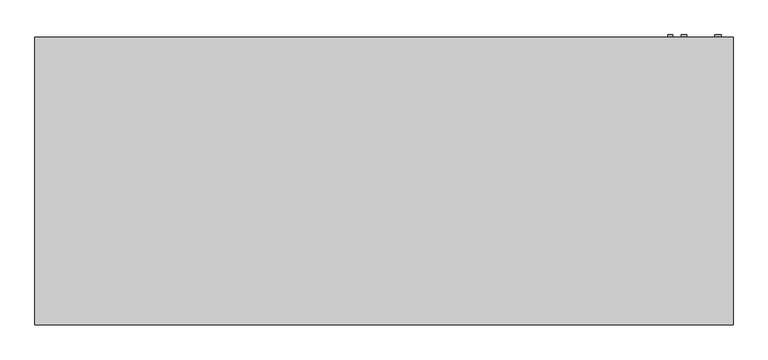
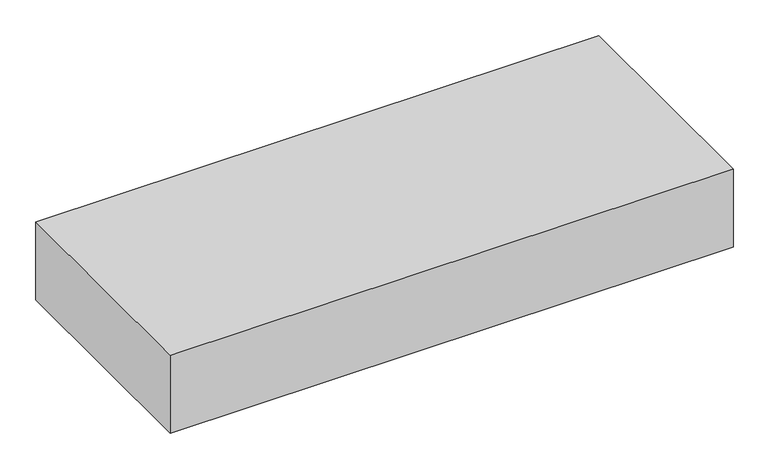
"""IFC4 building model written with IfcOpenShell, lengths in millimetres: proxy geometry, Exposed_Horizontal_Fan_Coil_Unit_-_42CGB_-_CARRIER_-_2-Pipe_Cool-EHeat_BS-BR_RH_2022 : Size 12 - 277v/60Hz/1Ph - 4 Row 10.0kW."""

import ifcopenshell
import ifcopenshell.guid

model = None  # the IFC model being written
_history = None  # IfcOwnerHistory: only IFC2X3 demands one
_inside = {}  # id of a spatial element -> (the spatial element, [elements in it])
_under = {}  # id of a project, library or spatial element -> (it, [spatial elements below it])
_declared = {}  # id of a project -> (the project, [libraries it declares])
_typed = {}  # id of a type object -> (the type object, [elements of that type])
_made_of = {}  # id of a material, layer set ... -> (it, [elements and type objects made of it])


def new_model(schema):
    """Start an empty IFC model of exactly this schema.

    Asked for "IFC4X3", IfcOpenShell would pick the latest addendum, in which some entities
    have other attributes; the version numbers below select the first issue.
    IFC2X3 requires an IfcOwnerHistory on every rooted entity: one is made here for all.
    """
    global model, _history
    if schema == "IFC4X3":
        model = ifcopenshell.file(schema_version=(4, 3, 0, 0))
    else:
        model = ifcopenshell.file(schema=schema)
    _inside.clear()
    _under.clear()
    _declared.clear()
    _typed.clear()
    _made_of.clear()
    _history = None
    if model.schema == "IFC2X3":
        org = make("IfcOrganization", Name="unknown")
        user = make(
            "IfcPersonAndOrganization",
            ThePerson=make("IfcPerson", FamilyName="unknown"),
            TheOrganization=org,
        )
        app = make(
            "IfcApplication",
            ApplicationDeveloper=org,
            Version="unknown",
            ApplicationFullName="unknown",
            ApplicationIdentifier="unknown",
        )
        _history = make(
            "IfcOwnerHistory",
            OwningUser=user,
            OwningApplication=app,
            ChangeAction="ADDED",
            CreationDate=0,
        )
    return model


def make(cls, **values):
    """One entity of the class cls with the attributes given. An attribute that is None is left unset."""
    return model.create_entity(
        cls, **{name: value for name, value in values.items() if value is not None}
    )


def rooted(cls, **values):
    """An entity with a GlobalId (a new one), such as an element, a storey or a relation."""
    return make(cls, GlobalId=ifcopenshell.guid.new(), OwnerHistory=_history, **values)


def si_unit(unit_type, name, prefix=None):
    """IfcSIUnit, for example si_unit("LENGTHUNIT", "METRE", prefix="MILLI")."""
    return make("IfcSIUnit", UnitType=unit_type, Prefix=prefix, Name=name)


def assignment(units):
    """IfcUnitAssignment: the units of a project."""
    return None if units is None else make("IfcUnitAssignment", Units=units)


def point(xyz):
    """IfcCartesianPoint."""
    return None if xyz is None else make("IfcCartesianPoint", Coordinates=xyz)


def direction(xyz):
    """IfcDirection."""
    return None if xyz is None else make("IfcDirection", DirectionRatios=xyz)


def frame(location, z_axis=None, x_axis=None):
    """IfcAxis2Placement3D, a coordinate frame: its origin and axes. An axis left out is left unset."""
    return make(
        "IfcAxis2Placement3D",
        Location=point(location),
        Axis=direction(z_axis),
        RefDirection=direction(x_axis),
    )


def frame_2d(location, x_axis=None):
    """IfcAxis2Placement2D, a coordinate frame in the plane: its origin and x axis."""
    return make(
        "IfcAxis2Placement2D", Location=point(location), RefDirection=direction(x_axis)
    )


def origin():
    """The frame at (0, 0, 0) with its axes left unset."""
    return frame((0.0, 0.0, 0.0))


def place(relative_to, where):
    """IfcLocalPlacement: puts the frame where relative to a parent placement (None: the world)."""
    return make(
        "IfcLocalPlacement", PlacementRelTo=relative_to, RelativePlacement=where
    )


def context(
    kind, dimensions, precision=None, world=None, true_north=None, identifier=None
):
    """IfcGeometricRepresentationContext, for example the 3D "Model" context."""
    return make(
        "IfcGeometricRepresentationContext",
        ContextIdentifier=identifier,
        ContextType=kind,
        CoordinateSpaceDimension=dimensions,
        Precision=precision,
        WorldCoordinateSystem=world,
        TrueNorth=true_north,
    )


def project(units=None, contexts=None):
    """IfcProject with its units and contexts."""
    return rooted(
        "IfcProject",
        Name="project",
        RepresentationContexts=contexts,
        UnitsInContext=assignment(units),
    )


def spatial(cls, under=None, at=None, **own):
    """A site, building, storey or space (cls), placed at a placement, below another one or the project."""
    s = rooted(cls, ObjectPlacement=at, **own)
    if under is not None:
        _under.setdefault(under.id(), (under, []))[1].append(s)
    return s


def polyline(points):
    """IfcPolyline through the points."""
    return make("IfcPolyline", Points=[point(p) for p in points])


def circle_curve(where, radius):
    """IfcCircle in the frame where."""
    return make("IfcCircle", Position=where, Radius=radius)


def trimmed(basis, trim1, trim2, sense, master):
    """IfcTrimmedCurve: the piece of a basis curve between two trims."""
    return make(
        "IfcTrimmedCurve",
        BasisCurve=basis,
        Trim1=trim1,
        Trim2=trim2,
        SenseAgreement=sense,
        MasterRepresentation=master,
    )


def segment(curve, same_sense, transition):
    """IfcCompositeCurveSegment."""
    return make(
        "IfcCompositeCurveSegment",
        Transition=transition,
        SameSense=same_sense,
        ParentCurve=curve,
    )


def composite_curve(segments, self_intersect=None):
    """IfcCompositeCurve: segments joined end to end."""
    return make("IfcCompositeCurve", Segments=segments, SelfIntersect=self_intersect)


def outline(outer, holes=None, kind="AREA"):
    """IfcArbitraryClosedProfileDef: a profile drawn as a closed curve; with holes, ...WithVoids."""
    if holes is None:
        return make("IfcArbitraryClosedProfileDef", ProfileType=kind, OuterCurve=outer)
    return make(
        "IfcArbitraryProfileDefWithVoids",
        ProfileType=kind,
        OuterCurve=outer,
        InnerCurves=holes,
    )


def extrude(swept, where, along, depth):
    """IfcExtrudedAreaSolid: the profile swept, set in the frame where, extruded along a direction by depth."""
    return make(
        "IfcExtrudedAreaSolid",
        SweptArea=swept,
        Position=where,
        ExtrudedDirection=direction(along),
        Depth=depth,
    )


def shape(context_of_items, identifier, shape_type, items):
    """IfcShapeRepresentation: the items that make up one representation, for example the "Body"."""
    return make(
        "IfcShapeRepresentation",
        ContextOfItems=context_of_items,
        RepresentationIdentifier=identifier,
        RepresentationType=shape_type,
        Items=items,
    )


def source(mapping_origin, context_of_items, identifier, shape_type, items):
    """IfcRepresentationMap: a shape defined once, which mapped items show again and again."""
    return make(
        "IfcRepresentationMap",
        MappingOrigin=mapping_origin,
        MappedRepresentation=shape(context_of_items, identifier, shape_type, items),
    )


def transform(
    local_origin,
    x_axis=None,
    y_axis=None,
    z_axis=None,
    scale=None,
    scale2=None,
    scale3=None,
    uniform=True,
):
    """IfcCartesianTransformationOperator3D, or its non-uniform kind. x_axis, y_axis, z_axis: its Axis1, 2, 3."""
    if uniform:
        return make(
            "IfcCartesianTransformationOperator3D",
            Axis1=direction(x_axis),
            Axis2=direction(y_axis),
            LocalOrigin=point(local_origin),
            Scale=scale,
            Axis3=direction(z_axis),
        )
    return make(
        "IfcCartesianTransformationOperator3DnonUniform",
        Axis1=direction(x_axis),
        Axis2=direction(y_axis),
        LocalOrigin=point(local_origin),
        Scale=scale,
        Axis3=direction(z_axis),
        Scale2=scale2,
        Scale3=scale3,
    )


def mapped(mapping_source, mapping_target):
    """IfcMappedItem: shows the shape of a source again, moved by a transform."""
    return make(
        "IfcMappedItem", MappingSource=mapping_source, MappingTarget=mapping_target
    )


def made_of(thing, what):
    """Note that an element or type object is made of a material, layer set ...; save() writes the relation."""
    if what is not None:
        _made_of.setdefault(what.id(), (what, []))[1].append(thing)
    return thing


def element(
    cls,
    number,
    at=None,
    inside=None,
    cuts=None,
    type_object=None,
    material=None,
    context=None,
    identifier="Body",
    shape_type=None,
    held_by="IfcProductDefinitionShape",
    body=None,
    shapes=None,
    **own,
):
    """One element of the class cls, such as IfcWall. Its Tag is "e" and its number.

    at: its placement. inside: the storey or other place that contains it. cuts: it is an
    opening in that element (IfcRelVoidsElement). A single representation is given by context,
    identifier, shape_type and body (its items); several are given by shapes. held_by: the class
    of the entity that holds the representations. save() writes the other relations.
    """
    e = rooted(cls, Tag="e%d" % number, ObjectPlacement=at, **own)
    if body is not None:
        shapes = [shape(context, identifier, shape_type, body)]
    if shapes is not None:
        e.Representation = make(held_by, Representations=shapes)
    if inside is not None:
        _inside.setdefault(inside.id(), (inside, []))[1].append(e)
    if cuts is not None:
        rooted(
            "IfcRelVoidsElement", RelatingBuildingElement=cuts, RelatedOpeningElement=e
        )
    if type_object is not None:
        _typed.setdefault(type_object.id(), (type_object, []))[1].append(e)
    return made_of(e, material)


def aggregate(whole, parts):
    """IfcRelAggregates: a whole, such as a stair, and the parts it consists of."""
    return rooted("IfcRelAggregates", RelatingObject=whole, RelatedObjects=parts)


def save(model, path):
    """Write the relations noted so far, then the file.

    IfcRelAggregates (storeys below a building ...), IfcRelContainedInSpatialStructure (elements
    in a storey), IfcRelDefinesByType, IfcRelAssociatesMaterial and IfcRelDeclares: one each for
    every whole, place, type object, material and project.
    """
    for whole, parts in _under.values():
        aggregate(whole, parts)
    for where, things in _inside.values():
        rooted(
            "IfcRelContainedInSpatialStructure",
            RelatedElements=things,
            RelatingStructure=where,
        )
    for kind, things in _typed.values():
        rooted("IfcRelDefinesByType", RelatedObjects=things, RelatingType=kind)
    for what, things in _made_of.values():
        rooted("IfcRelAssociatesMaterial", RelatedObjects=things, RelatingMaterial=what)
    for by, libraries in _declared.values():
        rooted("IfcRelDeclares", RelatingContext=by, RelatedDefinitions=libraries)
    model.write(path)


def mechanical_equipment_b5fd1289(model_context):
    return source(origin(), model_context, "Body", "SweptSolid", [
        extrude(outline(polyline([(925.5125, -433.3875), (925.5125, -604.8375), (-620.7125, -604.8375), (-620.7125, -433.3875), (925.5125, -433.3875)])), frame((0.0, 0.0, -311.15), z_axis=(0.0, 0.0, 1.0), x_axis=(1.0, 0.0, 0.0)), (0.0, 0.0, 1.0), 6.35),
        extrude(outline(composite_curve([segment(trimmed(circle_curve(frame_2d((-60.325, 1006.475)), 7.9375), [point((-60.325, 1014.4125))], [point((-60.325, 998.5375))], False, "CARTESIAN"), True, "CONTINUOUS"), segment(trimmed(circle_curve(frame_2d((-60.325, 1006.475)), 7.9375), [point((-60.325, 998.5375))], [point((-60.325, 1014.4125))], False, "CARTESIAN"), True, "CONTINUOUS")], self_intersect=False)), frame((0.0, 192.0875, 0.0), z_axis=(0.0, 1.0, 0.0), x_axis=(0.0, 0.0, 1.0)), (0.0, 0.0, 1.0), 6.35),
        extrude(outline(composite_curve([segment(trimmed(circle_curve(frame_2d((-95.25, 1047.75)), 7.9375), [point((-95.25, 1055.6875))], [point((-95.25, 1039.8125))], False, "CARTESIAN"), True, "CONTINUOUS"), segment(trimmed(circle_curve(frame_2d((-95.25, 1047.75)), 7.9375), [point((-95.25, 1039.8125))], [point((-95.25, 1055.6875))], False, "CARTESIAN"), True, "CONTINUOUS")], self_intersect=False)), frame((0.0, 192.0875, 0.0), z_axis=(0.0, 1.0, 0.0), x_axis=(0.0, 0.0, 1.0)), (0.0, 0.0, 1.0), 6.35),
        extrude(outline(composite_curve([segment(trimmed(circle_curve(frame_2d((-260.35, 1149.35)), 9.525), [point((-260.35, 1158.875))], [point((-260.35, 1139.825))], False, "CARTESIAN"), True, "CONTINUOUS"), segment(trimmed(circle_curve(frame_2d((-260.35, 1149.35)), 9.525), [point((-260.35, 1139.825))], [point((-260.35, 1158.875))], False, "CARTESIAN"), True, "CONTINUOUS")], self_intersect=False)), frame((0.0, 192.0875, 0.0), z_axis=(0.0, 1.0, 0.0), x_axis=(0.0, 0.0, 1.0)), (0.0, 0.0, 1.0), 6.35),
        extrude(outline(polyline([(-889.0, 192.0875), (1193.8, 192.0875), (1193.8, -668.3375), (-889.0, -668.3375), (-889.0, 192.0875)])), frame((0.0, 0.0, -304.8), z_axis=(0.0, 0.0, 1.0), x_axis=(1.0, 0.0, 0.0)), (0.0, 0.0, 1.0), 304.8),
        extrude(outline(polyline([(952.5, 115.8875), (952.5, -138.1125), (-647.7, -138.1125), (-647.7, 115.8875), (952.5, 115.8875)])), frame((0.0, 0.0, -311.15), z_axis=(0.0, 0.0, 1.0), x_axis=(1.0, 0.0, 0.0)), (0.0, 0.0, 1.0), 6.35),
    ])


if __name__ == "__main__":
    model = new_model("IFC4")
    model_context = context("Model", 3, world=origin())
    ifc_project = project(units=[si_unit("LENGTHUNIT", "METRE", prefix="MILLI")], contexts=[model_context])
    site = spatial("IfcSite", under=ifc_project)
    building = spatial("IfcBuilding", under=site)
    placement = place(None, origin())
    mechanical_equipment_shape = mechanical_equipment_b5fd1289(model_context)
    element("IfcBuildingElementProxy", 1, Name="Exposed_Horizontal_Fan_Coil_Unit_-_42CGB_-_CARRIER_-_2-Pipe_Cool-EHeat_BS-BR_RH_2022 : Size 12 - 277v/60Hz/1Ph - 4 Row 10.0kW", ObjectType="Exposed_Horizontal_Fan_Coil_Unit_-_42CGB_-_CARRIER_-_2-Pipe_Cool-EHeat_BS-BR_RH_2022 : Size 12 - 277v/60Hz/1Ph - 4 Row 10.0kW", at=placement, inside=building, context=model_context, shape_type="MappedRepresentation", body=[
        mapped(mechanical_equipment_shape, transform((0.0, 0.0, 0.0), x_axis=(1.0, 0.0, 0.0), y_axis=(0.0, 1.0, 0.0), z_axis=(0.0, 0.0, 1.0))),
    ])
    save(model, "model.ifc")
